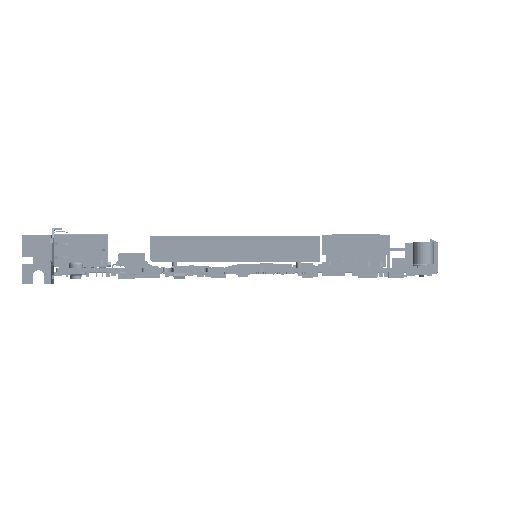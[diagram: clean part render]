
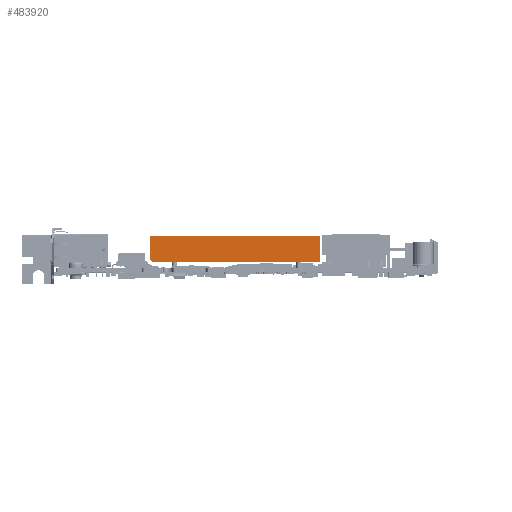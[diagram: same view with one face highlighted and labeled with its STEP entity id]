
A CAD part, top view. The second image highlights one B-rep face of the part: STEP entity #483920.
In plain terms, the highlighted planar face has unit normal (0, 0, 1) as drawn and (1, 0, 0) by its records, which use the part's own axes.
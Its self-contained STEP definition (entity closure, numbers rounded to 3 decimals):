
#481851=DIRECTION('',(0.,0.,-1.));
#481852=VECTOR('',#481851,64.5);
#481853=CARTESIAN_POINT('',(27.5,0.,51.5));
#481854=LINE('',#481853,#481852);
#482361=DIRECTION('',(0.,-0.707,-0.707));
#482362=VECTOR('',#482361,1.414);
#482363=CARTESIAN_POINT('',(27.5,1.,52.5));
#482364=LINE('',#482363,#482362);
#482365=DIRECTION('',(0.,1.,0.));
#482366=VECTOR('',#482365,9.1);
#482367=CARTESIAN_POINT('',(27.5,1.,52.5));
#482368=LINE('',#482367,#482366);
#482369=DIRECTION('',(0.,0.,-1.));
#482370=VECTOR('',#482369,65.5);
#482371=CARTESIAN_POINT('',(27.5,10.1,52.5));
#482372=LINE('',#482371,#482370);
#482373=DIRECTION('',(0.,1.,0.));
#482374=VECTOR('',#482373,10.1);
#482375=CARTESIAN_POINT('',(27.5,0.,-13.));
#482376=LINE('',#482375,#482374);
#483124=CARTESIAN_POINT('',(27.5,0.,-13.));
#483126=VERTEX_POINT('',#483124);
#483133=CARTESIAN_POINT('',(27.5,10.1,-13.));
#483134=VERTEX_POINT('',#483133);
#483209=CARTESIAN_POINT('',(27.5,10.1,52.5));
#483210=VERTEX_POINT('',#483209);
#483267=CARTESIAN_POINT('',(27.5,1.,52.5));
#483268=VERTEX_POINT('',#483267);
#483269=CARTESIAN_POINT('',(27.5,0.,51.5));
#483270=VERTEX_POINT('',#483269);
#483905=CARTESIAN_POINT('',(27.5,0.,51.));
#483906=DIRECTION('',(1.,0.,0.));
#483907=DIRECTION('',(0.,0.,-1.));
#483908=AXIS2_PLACEMENT_3D('',#483905,#483906,#483907);
#483909=PLANE('',#483908);
#483911=ORIENTED_EDGE('',*,*,#483910,.F.);
#483913=ORIENTED_EDGE('',*,*,#483912,.T.);
#483915=ORIENTED_EDGE('',*,*,#483914,.T.);
#483916=ORIENTED_EDGE('',*,*,#483889,.F.);
#483917=ORIENTED_EDGE('',*,*,#483278,.F.);
#483918=EDGE_LOOP('',(#483911,#483913,#483915,#483916,#483917));
#483919=FACE_OUTER_BOUND('',#483918,.F.);
#483920=ADVANCED_FACE('',(#483919),#483909,.T.);
#483278=EDGE_CURVE('',#483270,#483126,#481854,.T.);
#483889=EDGE_CURVE('',#483126,#483134,#482376,.T.);
#483910=EDGE_CURVE('',#483268,#483270,#482364,.T.);
#483912=EDGE_CURVE('',#483268,#483210,#482368,.T.);
#483914=EDGE_CURVE('',#483210,#483134,#482372,.T.);
